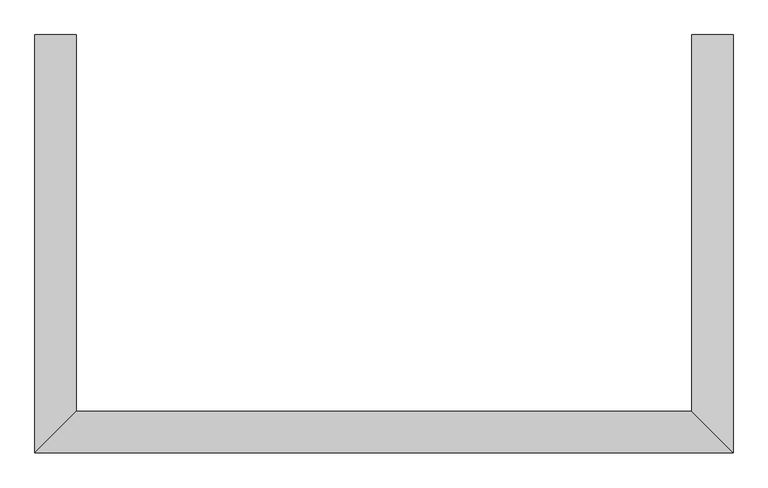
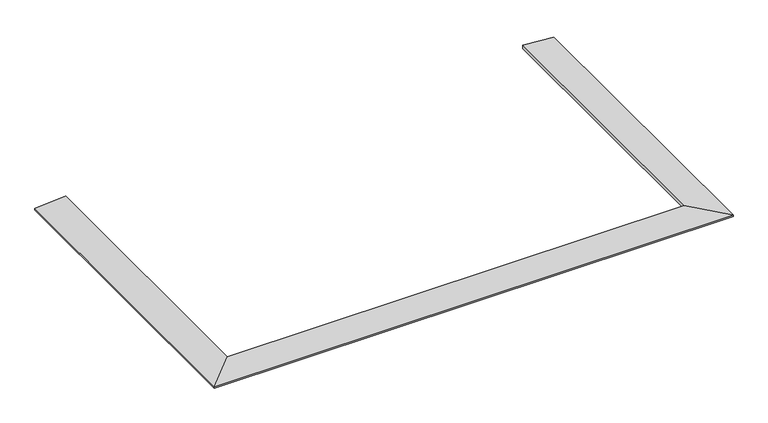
"""IFC4 building model written with IfcOpenShell, lengths in millimetres: proxy geometry, Modelos genéricos 1 : Modelos genéricos 1."""

from ifc_helpers import new_model, si_unit, origin, place, context, project, spatial, faceted_brep, source, transform, mapped, element, save


def generic_models_75064c97(model_context):
    return source(origin(), model_context, "Body", "Brep", [
        faceted_brep([(8238.4881645, -1233.370942, 530.0), (8478.4881645, -1233.370942, 512.7575297), (8478.4881645, -1233.370942, 500.0), (8238.4881645, -1233.370942, 500.0), (8238.4881645, -3413.370942, 530.0), (8478.4881645, -3653.370942, 512.7575297), (8478.4881645, -3653.370942, 500.0), (4438.4881645, -3653.370942, 500.0), (4438.4881645, -1233.370942, 500.0), (4678.4881645, -1233.370942, 500.0), (4678.4881645, -3413.370942, 500.0), (8238.4881645, -3413.370942, 500.0), (4678.4881645, -3413.370942, 530.0), (4438.4881645, -3653.370942, 512.7575297), (4678.4881645, -1233.370942, 530.0), (4438.4881645, -1233.370942, 512.7575297)], [[[0, 1, 2, 3]], [[1, 0, 4, 5]], [[2, 1, 5, 6]], [[3, 2, 6, 7, 8, 9, 10, 11]], [[0, 3, 11, 4]], [[5, 4, 12, 13]], [[14, 9, 8, 15]], [[13, 12, 14, 15]], [[6, 5, 13, 7]], [[4, 11, 10, 12]], [[7, 13, 15, 8]], [[12, 10, 9, 14]]]),
    ])


if __name__ == "__main__":
    model = new_model("IFC4")
    model_context = context("Model", 3, world=origin())
    ifc_project = project(units=[si_unit("LENGTHUNIT", "METRE", prefix="MILLI")], contexts=[model_context])
    site = spatial("IfcSite", under=ifc_project)
    building = spatial("IfcBuilding", under=site)
    placement = place(None, origin())
    generic_models_shape = generic_models_75064c97(model_context)
    element("IfcBuildingElementProxy", 1, Name="Modelos genéricos 1 : Modelos genéricos 1", ObjectType="Modelos genéricos 1 : Modelos genéricos 1", at=placement, inside=building, context=model_context, shape_type="MappedRepresentation", body=[
        mapped(generic_models_shape, transform((0.0, 0.0, 0.0), x_axis=(1.0, 0.0, 0.0), y_axis=(0.0, 1.0, 0.0), z_axis=(0.0, 0.0, 1.0))),
    ])
    save(model, "model.ifc")
